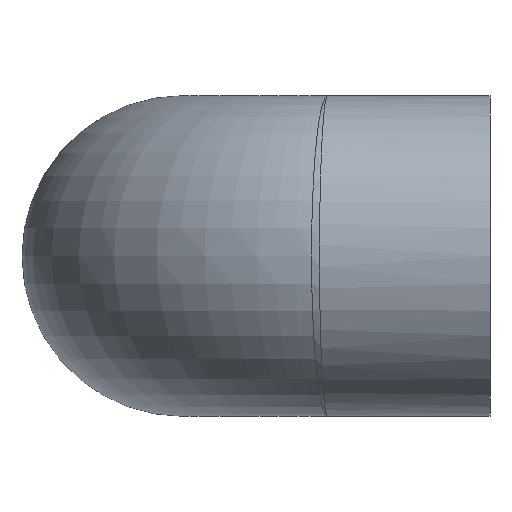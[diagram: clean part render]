
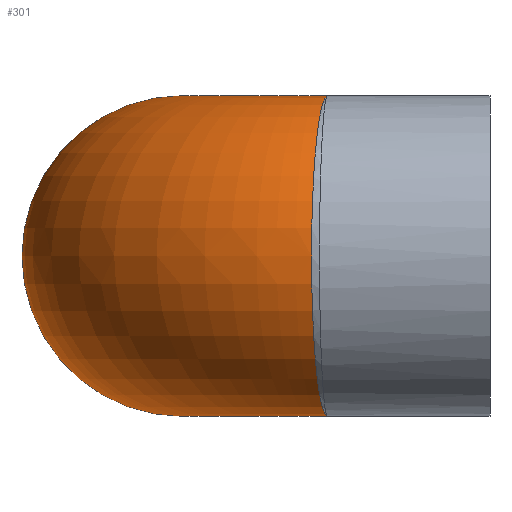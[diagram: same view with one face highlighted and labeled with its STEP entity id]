
A CAD part, left-side view. The second image highlights one B-rep face of the part: STEP entity #301.
In plain terms, the highlighted toroidal (fillet/blend) face has major radius 37.791 mm and minor radius 37.5 mm.
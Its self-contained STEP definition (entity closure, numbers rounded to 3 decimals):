
#24=TOROIDAL_SURFACE('',#357,37.791,37.5);
#28=B_SPLINE_CURVE_WITH_KNOTS('',3,(#508,#509,#510,#511,#512,#513,#514,
#515,#516,#517,#518,#519,#520,#521,#522,#523,#524,#525,#526,#527,#528,#529,
#530,#531,#532,#533,#534,#535,#536,#537,#538,#539,#540,#541,#542,#543,#544,
#545,#546,#547,#548,#549,#550,#551,#552,#553,#554,#555),.UNSPECIFIED.,.F.,
 .F.,(4,2,2,2,2,2,2,2,2,2,2,2,2,2,2,2,2,2,2,2,2,2,2,4),(-0.019,
0.,0.817,1.61,3.1,4.146,
5.097,5.842,5.925,5.99,6.008,
6.015,6.021,6.027,6.035,6.059,
6.066,6.361,7.174,8.503,9.872,
11.773,13.621,13.645),.UNSPECIFIED.);
#60=FACE_BOUND('',#106,.T.);
#76=FACE_OUTER_BOUND('',#105,.T.);
#105=EDGE_LOOP('',(#227));
#106=EDGE_LOOP('',(#228,#229));
#134=CIRCLE('',#353,37.5);
#135=CIRCLE('',#356,37.5);
#149=VERTEX_POINT('',#500);
#150=VERTEX_POINT('',#503);
#151=VERTEX_POINT('',#504);
#179=EDGE_CURVE('',#149,#149,#134,.T.);
#181=EDGE_CURVE('',#150,#151,#135,.T.);
#182=EDGE_CURVE('',#151,#150,#28,.T.);
#227=ORIENTED_EDGE('',*,*,#179,.F.);
#228=ORIENTED_EDGE('',*,*,#181,.F.);
#229=ORIENTED_EDGE('',*,*,#182,.F.);
#301=ADVANCED_FACE('',(#76,#60),#24,.T.);
#353=AXIS2_PLACEMENT_3D('',#501,#406,#407);
#356=AXIS2_PLACEMENT_3D('',#506,#412,#413);
#357=AXIS2_PLACEMENT_3D('',#507,#414,#415);
#406=DIRECTION('center_axis',(1.,0.,0.));
#407=DIRECTION('ref_axis',(0.,-1.,0.));
#412=DIRECTION('center_axis',(-0.1,-0.995,0.));
#413=DIRECTION('ref_axis',(0.995,-0.1,0.));
#414=DIRECTION('center_axis',(0.,0.,-1.));
#415=DIRECTION('ref_axis',(-0.995,0.1,0.));
#500=CARTESIAN_POINT('',(37.6,109.5,0.));
#501=CARTESIAN_POINT('Origin',(37.6,72.,0.));
#503=CARTESIAN_POINT('',(0.,38.,37.5));
#504=CARTESIAN_POINT('',(0.,38.,-37.5));
#506=CARTESIAN_POINT('Origin',(0.,38.,0.));
#507=CARTESIAN_POINT('Origin',(37.6,34.209,0.));
#508=CARTESIAN_POINT('Ctrl Pts',(0.,38.,-37.5));
#509=CARTESIAN_POINT('Ctrl Pts',(0.062,37.997,-37.5));
#510=CARTESIAN_POINT('Ctrl Pts',(0.125,37.994,-37.5));
#511=CARTESIAN_POINT('Ctrl Pts',(2.906,37.854,-37.486));
#512=CARTESIAN_POINT('Ctrl Pts',(5.615,37.71,-37.177));
#513=CARTESIAN_POINT('Ctrl Pts',(10.842,37.412,-35.995));
#514=CARTESIAN_POINT('Ctrl Pts',(13.349,37.26,-35.143));
#515=CARTESIAN_POINT('Ctrl Pts',(20.245,36.805,-31.953));
#516=CARTESIAN_POINT('Ctrl Pts',(24.287,36.494,-28.999));
#517=CARTESIAN_POINT('Ctrl Pts',(29.988,35.939,-22.783));
#518=CARTESIAN_POINT('Ctrl Pts',(31.971,35.705,-19.905));
#519=CARTESIAN_POINT('Ctrl Pts',(34.946,35.255,-13.966));
#520=CARTESIAN_POINT('Ctrl Pts',(35.999,35.039,-10.97));
#521=CARTESIAN_POINT('Ctrl Pts',(37.183,34.679,-5.457));
#522=CARTESIAN_POINT('Ctrl Pts',(37.406,34.545,-3.264));
#523=CARTESIAN_POINT('Ctrl Pts',(37.483,34.494,-1.153));
#524=CARTESIAN_POINT('Ctrl Pts',(37.489,34.49,-0.942));
#525=CARTESIAN_POINT('Ctrl Pts',(37.496,34.485,-0.563));
#526=CARTESIAN_POINT('Ctrl Pts',(37.498,34.483,-0.395));
#527=CARTESIAN_POINT('Ctrl Pts',(37.5,34.483,-0.183));
#528=CARTESIAN_POINT('Ctrl Pts',(37.5,34.482,-0.139));
#529=CARTESIAN_POINT('Ctrl Pts',(37.5,34.482,-0.076));
#530=CARTESIAN_POINT('Ctrl Pts',(37.5,34.482,-0.056));
#531=CARTESIAN_POINT('Ctrl Pts',(37.5,34.482,-0.023));
#532=CARTESIAN_POINT('Ctrl Pts',(37.5,34.482,-0.009));
#533=CARTESIAN_POINT('Ctrl Pts',(37.5,34.482,0.02));
#534=CARTESIAN_POINT('Ctrl Pts',(37.5,34.482,0.035));
#535=CARTESIAN_POINT('Ctrl Pts',(37.5,34.482,0.072));
#536=CARTESIAN_POINT('Ctrl Pts',(37.5,34.482,0.095));
#537=CARTESIAN_POINT('Ctrl Pts',(37.5,34.483,0.177));
#538=CARTESIAN_POINT('Ctrl Pts',(37.499,34.483,0.237));
#539=CARTESIAN_POINT('Ctrl Pts',(37.499,34.483,0.315));
#540=CARTESIAN_POINT('Ctrl Pts',(37.499,34.483,0.333));
#541=CARTESIAN_POINT('Ctrl Pts',(37.491,34.488,1.104));
#542=CARTESIAN_POINT('Ctrl Pts',(37.462,34.509,1.853));
#543=CARTESIAN_POINT('Ctrl Pts',(37.267,34.622,4.656));
#544=CARTESIAN_POINT('Ctrl Pts',(36.952,34.759,6.722));
#545=CARTESIAN_POINT('Ctrl Pts',(35.659,35.118,12.102));
#546=CARTESIAN_POINT('Ctrl Pts',(34.402,35.354,15.314));
#547=CARTESIAN_POINT('Ctrl Pts',(30.999,35.825,21.398));
#548=CARTESIAN_POINT('Ctrl Pts',(28.842,36.061,24.226));
#549=CARTESIAN_POINT('Ctrl Pts',(22.822,36.612,30.159));
#550=CARTESIAN_POINT('Ctrl Pts',(18.677,36.917,32.887));
#551=CARTESIAN_POINT('Ctrl Pts',(9.698,37.488,36.538));
#552=CARTESIAN_POINT('Ctrl Pts',(4.967,37.75,37.476));
#553=CARTESIAN_POINT('Ctrl Pts',(0.125,37.994,37.5));
#554=CARTESIAN_POINT('Ctrl Pts',(0.062,37.997,37.5));
#555=CARTESIAN_POINT('Ctrl Pts',(0.,38.,37.5));
